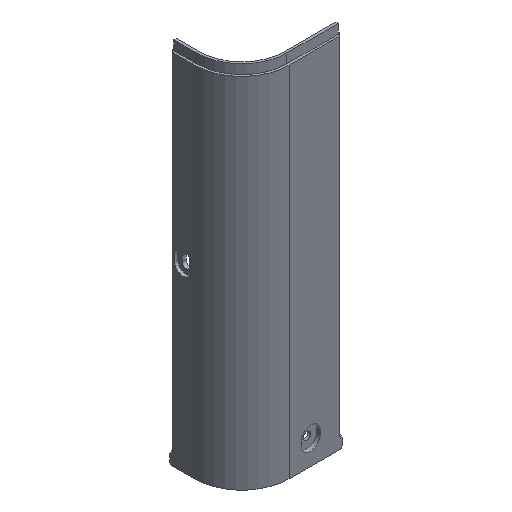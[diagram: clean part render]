
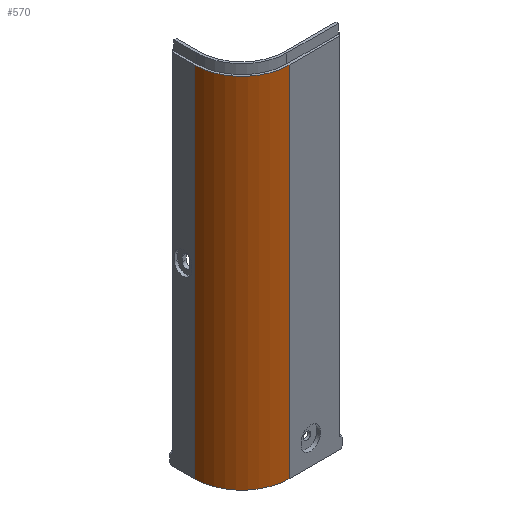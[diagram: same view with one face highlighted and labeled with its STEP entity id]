
A CAD part, isometric view. The second image highlights one B-rep face of the part: STEP entity #570.
In plain terms, the highlighted cylindrical face has radius 25 mm (diameter 50 mm), a partial arc.
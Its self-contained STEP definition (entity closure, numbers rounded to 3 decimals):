
#155 = AXIS2_PLACEMENT_3D ( 'NONE', #1846, #1563, #342 ) ;
#255 = FACE_OUTER_BOUND ( 'NONE', #1753, .T. ) ;
#342 = DIRECTION ( 'NONE',  ( -1., 0., 0. ) ) ;
#376 = VECTOR ( 'NONE', #651, 1000. ) ;
#468 = CARTESIAN_POINT ( 'NONE',  ( 0., 0., -373.5 ) ) ;
#494 = DIRECTION ( 'NONE',  ( 0., 0., 1. ) ) ;
#570 = ADVANCED_FACE ( 'NONE', ( #255 ), #3143, .T. ) ;
#651 = DIRECTION ( 'NONE',  ( 0., 0., 1. ) ) ;
#824 = AXIS2_PLACEMENT_3D ( 'NONE', #997, #494, #1970 ) ;
#851 = ORIENTED_EDGE ( 'NONE', *, *, #1653, .T. ) ;
#938 = VERTEX_POINT ( 'NONE', #1105 ) ;
#975 = CARTESIAN_POINT ( 'NONE',  ( -25., 0., -368.5 ) ) ;
#997 = CARTESIAN_POINT ( 'NONE',  ( 0., 0., -368.5 ) ) ;
#1105 = CARTESIAN_POINT ( 'NONE',  ( -25., 0., -373.5 ) ) ;
#1426 = CARTESIAN_POINT ( 'NONE',  ( 0., -25., -368.5 ) ) ;
#1476 = VERTEX_POINT ( 'NONE', #2086 ) ;
#1515 = ORIENTED_EDGE ( 'NONE', *, *, #2742, .T. ) ;
#1518 = VERTEX_POINT ( 'NONE', #2359 ) ;
#1563 = DIRECTION ( 'NONE',  ( 0., 0., -1. ) ) ;
#1637 = ORIENTED_EDGE ( 'NONE', *, *, #1792, .F. ) ;
#1653 = EDGE_CURVE ( 'NONE', #1518, #2574, #2680, .T. ) ;
#1720 = DIRECTION ( 'NONE',  ( 0., 0., -1. ) ) ;
#1753 = EDGE_LOOP ( 'NONE', ( #851, #1515, #1637, #1951 ) ) ;
#1784 = EDGE_CURVE ( 'NONE', #1518, #938, #2609, .T. ) ;
#1792 = EDGE_CURVE ( 'NONE', #938, #1476, #1974, .T. ) ;
#1846 = CARTESIAN_POINT ( 'NONE',  ( 0., 0., -183.75 ) ) ;
#1867 = VECTOR ( 'NONE', #2199, 1000. ) ;
#1948 = CARTESIAN_POINT ( 'NONE',  ( 0., -25., -183.75 ) ) ;
#1951 = ORIENTED_EDGE ( 'NONE', *, *, #1784, .F. ) ;
#1970 = DIRECTION ( 'NONE',  ( -1., 0., 0. ) ) ;
#1974 = LINE ( 'NONE', #975, #1867 ) ;
#2086 = CARTESIAN_POINT ( 'NONE',  ( -25., 0., -183.75 ) ) ;
#2190 = DIRECTION ( 'NONE',  ( -1., 0., 0. ) ) ;
#2199 = DIRECTION ( 'NONE',  ( 0., 0., 1. ) ) ;
#2330 = CIRCLE ( 'NONE', #155, 25. ) ;
#2359 = CARTESIAN_POINT ( 'NONE',  ( 0., -25., -373.5 ) ) ;
#2574 = VERTEX_POINT ( 'NONE', #1948 ) ;
#2609 = CIRCLE ( 'NONE', #2766, 25. ) ;
#2680 = LINE ( 'NONE', #1426, #376 ) ;
#2742 = EDGE_CURVE ( 'NONE', #2574, #1476, #2330, .T. ) ;
#2766 = AXIS2_PLACEMENT_3D ( 'NONE', #468, #1720, #2190 ) ;
#3143 = CYLINDRICAL_SURFACE ( 'NONE', #824, 25. ) ;
